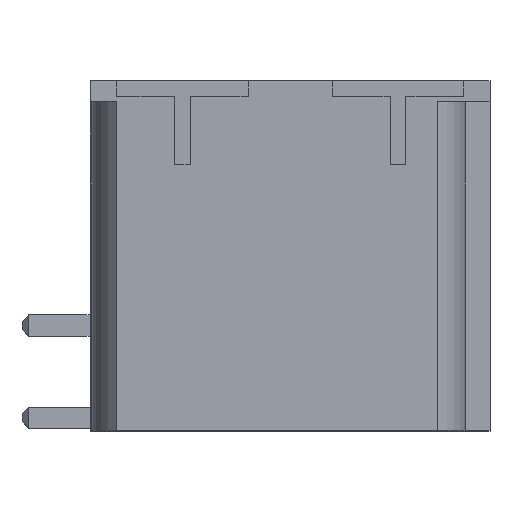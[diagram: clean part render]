
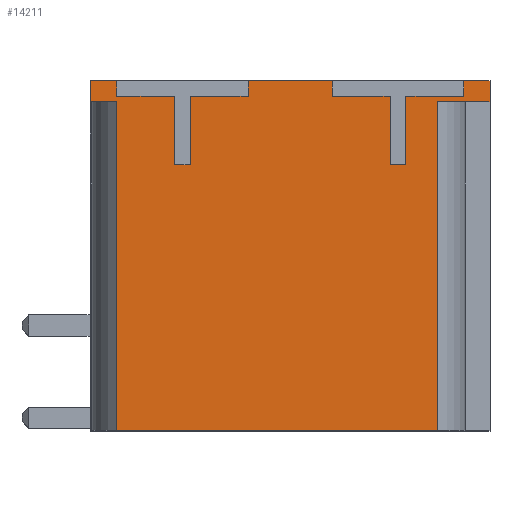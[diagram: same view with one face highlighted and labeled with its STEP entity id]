
A CAD part, top view. The second image highlights one B-rep face of the part: STEP entity #14211.
In plain terms, the highlighted planar face has unit normal (0, 0, 1).
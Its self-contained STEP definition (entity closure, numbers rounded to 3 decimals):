
#1494=DIRECTION('',(-1.,0.,0.));
#1495=VECTOR('',#1494,1.);
#1496=CARTESIAN_POINT('',(17.8,13.3,-10.873));
#1497=LINE('',#1496,#1495);
#1502=DIRECTION('',(-1.,0.,0.));
#1503=VECTOR('',#1502,3.2);
#1504=CARTESIAN_POINT('',(11.8,13.3,-10.873));
#1505=LINE('',#1504,#1503);
#1510=DIRECTION('',(-1.,0.,0.));
#1511=VECTOR('',#1510,1.);
#1512=CARTESIAN_POINT('',(3.6,13.3,-10.873));
#1513=LINE('',#1512,#1511);
#2012=DIRECTION('',(0.,1.,0.));
#2013=VECTOR('',#2012,0.8);
#2014=CARTESIAN_POINT('',(17.8,12.5,-10.873));
#2015=LINE('',#2014,#2013);
#2578=DIRECTION('',(1.,0.,0.));
#2579=VECTOR('',#2578,12.2);
#2580=CARTESIAN_POINT('',(3.6,0.,-10.873));
#2581=LINE('',#2580,#2579);
#2883=DIRECTION('',(0.,-1.,0.));
#2884=VECTOR('',#2883,0.8);
#2885=CARTESIAN_POINT('',(2.6,13.3,-10.873));
#2886=LINE('',#2885,#2884);
#2900=DIRECTION('',(0.,-1.,0.));
#2901=VECTOR('',#2900,12.5);
#2902=CARTESIAN_POINT('',(3.6,12.5,-10.873));
#2903=LINE('',#2902,#2901);
#2908=DIRECTION('',(0.,1.,0.));
#2909=VECTOR('',#2908,0.6);
#2910=CARTESIAN_POINT('',(16.8,12.7,-10.873));
#2911=LINE('',#2910,#2909);
#2912=DIRECTION('',(-1.,0.,0.));
#2913=VECTOR('',#2912,2.);
#2914=CARTESIAN_POINT('',(17.8,12.5,-10.873));
#2915=LINE('',#2914,#2913);
#2916=DIRECTION('',(0.,-1.,0.));
#2917=VECTOR('',#2916,12.5);
#2918=CARTESIAN_POINT('',(15.8,12.5,-10.873));
#2919=LINE('',#2918,#2917);
#2920=DIRECTION('',(-1.,0.,0.));
#2921=VECTOR('',#2920,1.);
#2922=CARTESIAN_POINT('',(3.6,12.5,-10.873));
#2923=LINE('',#2922,#2921);
#2924=DIRECTION('',(0.,1.,0.));
#2925=VECTOR('',#2924,0.6);
#2926=CARTESIAN_POINT('',(8.6,12.7,-10.873));
#2927=LINE('',#2926,#2925);
#2928=DIRECTION('',(0.,1.,0.));
#2929=VECTOR('',#2928,0.6);
#2930=CARTESIAN_POINT('',(11.8,12.7,-10.873));
#2931=LINE('',#2930,#2929);
#2972=DIRECTION('',(-1.,0.,0.));
#2973=VECTOR('',#2972,2.2);
#2974=CARTESIAN_POINT('',(16.8,12.7,-10.873));
#2975=LINE('',#2974,#2973);
#2980=DIRECTION('',(0.,-1.,0.));
#2981=VECTOR('',#2980,2.6);
#2982=CARTESIAN_POINT('',(14.6,12.7,-10.873));
#2983=LINE('',#2982,#2981);
#2988=DIRECTION('',(-1.,0.,0.));
#2989=VECTOR('',#2988,0.6);
#2990=CARTESIAN_POINT('',(14.6,10.1,-10.873));
#2991=LINE('',#2990,#2989);
#2996=DIRECTION('',(0.,1.,0.));
#2997=VECTOR('',#2996,2.6);
#2998=CARTESIAN_POINT('',(14.,10.1,-10.873));
#2999=LINE('',#2998,#2997);
#3004=DIRECTION('',(-1.,0.,0.));
#3005=VECTOR('',#3004,2.2);
#3006=CARTESIAN_POINT('',(14.,12.7,-10.873));
#3007=LINE('',#3006,#3005);
#3053=DIRECTION('',(0.,1.,0.));
#3054=VECTOR('',#3053,0.6);
#3055=CARTESIAN_POINT('',(3.6,12.7,-10.873));
#3056=LINE('',#3055,#3054);
#3097=DIRECTION('',(-1.,0.,0.));
#3098=VECTOR('',#3097,2.2);
#3099=CARTESIAN_POINT('',(8.6,12.7,-10.873));
#3100=LINE('',#3099,#3098);
#3105=DIRECTION('',(0.,-1.,0.));
#3106=VECTOR('',#3105,2.6);
#3107=CARTESIAN_POINT('',(6.4,12.7,-10.873));
#3108=LINE('',#3107,#3106);
#3113=DIRECTION('',(-1.,0.,0.));
#3114=VECTOR('',#3113,0.6);
#3115=CARTESIAN_POINT('',(6.4,10.1,-10.873));
#3116=LINE('',#3115,#3114);
#3121=DIRECTION('',(0.,1.,0.));
#3122=VECTOR('',#3121,2.6);
#3123=CARTESIAN_POINT('',(5.8,10.1,-10.873));
#3124=LINE('',#3123,#3122);
#3129=DIRECTION('',(-1.,0.,0.));
#3130=VECTOR('',#3129,2.2);
#3131=CARTESIAN_POINT('',(5.8,12.7,-10.873));
#3132=LINE('',#3131,#3130);
#7616=CARTESIAN_POINT('',(17.8,12.5,-10.873));
#7617=VERTEX_POINT('',#7616);
#7618=CARTESIAN_POINT('',(17.8,13.3,-10.873));
#7619=VERTEX_POINT('',#7618);
#7742=CARTESIAN_POINT('',(16.8,13.3,-10.873));
#7743=VERTEX_POINT('',#7742);
#7748=CARTESIAN_POINT('',(11.8,13.3,-10.873));
#7749=VERTEX_POINT('',#7748);
#7750=CARTESIAN_POINT('',(8.6,13.3,-10.873));
#7751=VERTEX_POINT('',#7750);
#7756=CARTESIAN_POINT('',(3.6,13.3,-10.873));
#7757=VERTEX_POINT('',#7756);
#7758=CARTESIAN_POINT('',(2.6,13.3,-10.873));
#7759=VERTEX_POINT('',#7758);
#8154=CARTESIAN_POINT('',(11.8,12.7,-10.873));
#8155=VERTEX_POINT('',#8154);
#8156=CARTESIAN_POINT('',(14.,12.7,-10.873));
#8157=VERTEX_POINT('',#8156);
#8158=CARTESIAN_POINT('',(14.,10.1,-10.873));
#8159=VERTEX_POINT('',#8158);
#8160=CARTESIAN_POINT('',(14.6,10.1,-10.873));
#8161=VERTEX_POINT('',#8160);
#8162=CARTESIAN_POINT('',(14.6,12.7,-10.873));
#8163=VERTEX_POINT('',#8162);
#8164=CARTESIAN_POINT('',(16.8,12.7,-10.873));
#8165=VERTEX_POINT('',#8164);
#8166=CARTESIAN_POINT('',(15.8,12.5,-10.873));
#8167=VERTEX_POINT('',#8166);
#8168=CARTESIAN_POINT('',(15.8,0.,-10.873));
#8169=VERTEX_POINT('',#8168);
#8170=CARTESIAN_POINT('',(3.6,0.,-10.873));
#8171=VERTEX_POINT('',#8170);
#8172=CARTESIAN_POINT('',(3.6,12.5,-10.873));
#8173=VERTEX_POINT('',#8172);
#8174=CARTESIAN_POINT('',(2.6,12.5,-10.873));
#8175=VERTEX_POINT('',#8174);
#8176=CARTESIAN_POINT('',(3.6,12.7,-10.873));
#8177=VERTEX_POINT('',#8176);
#8178=CARTESIAN_POINT('',(5.8,12.7,-10.873));
#8179=VERTEX_POINT('',#8178);
#8180=CARTESIAN_POINT('',(5.8,10.1,-10.873));
#8181=VERTEX_POINT('',#8180);
#8182=CARTESIAN_POINT('',(6.4,10.1,-10.873));
#8183=VERTEX_POINT('',#8182);
#8184=CARTESIAN_POINT('',(6.4,12.7,-10.873));
#8185=VERTEX_POINT('',#8184);
#8186=CARTESIAN_POINT('',(8.6,12.7,-10.873));
#8187=VERTEX_POINT('',#8186);
#14164=CARTESIAN_POINT('',(2.6,0.,-10.873));
#14165=DIRECTION('',(0.,0.,-1.));
#14166=DIRECTION('',(0.,1.,0.));
#14167=AXIS2_PLACEMENT_3D('',#14164,#14165,#14166);
#14168=PLANE('',#14167);
#14170=ORIENTED_EDGE('',*,*,#14169,.F.);
#14172=ORIENTED_EDGE('',*,*,#14171,.F.);
#14174=ORIENTED_EDGE('',*,*,#14173,.F.);
#14176=ORIENTED_EDGE('',*,*,#14175,.F.);
#14178=ORIENTED_EDGE('',*,*,#14177,.F.);
#14180=ORIENTED_EDGE('',*,*,#14179,.F.);
#14182=ORIENTED_EDGE('',*,*,#14181,.T.);
#14183=ORIENTED_EDGE('',*,*,#12585,.F.);
#14184=ORIENTED_EDGE('',*,*,#13051,.F.);
#14186=ORIENTED_EDGE('',*,*,#14185,.T.);
#14188=ORIENTED_EDGE('',*,*,#14187,.T.);
#14189=ORIENTED_EDGE('',*,*,#13774,.F.);
#14190=ORIENTED_EDGE('',*,*,#14156,.F.);
#14191=ORIENTED_EDGE('',*,*,#14145,.T.);
#14192=ORIENTED_EDGE('',*,*,#14128,.F.);
#14193=ORIENTED_EDGE('',*,*,#12601,.F.);
#14195=ORIENTED_EDGE('',*,*,#14194,.F.);
#14197=ORIENTED_EDGE('',*,*,#14196,.F.);
#14199=ORIENTED_EDGE('',*,*,#14198,.F.);
#14201=ORIENTED_EDGE('',*,*,#14200,.F.);
#14203=ORIENTED_EDGE('',*,*,#14202,.F.);
#14205=ORIENTED_EDGE('',*,*,#14204,.F.);
#14207=ORIENTED_EDGE('',*,*,#14206,.T.);
#14208=ORIENTED_EDGE('',*,*,#12593,.F.);
#14209=EDGE_LOOP('',(#14170,#14172,#14174,#14176,#14178,#14180,#14182,#14183,
#14184,#14186,#14188,#14189,#14190,#14191,#14192,#14193,#14195,#14197,#14199,
#14201,#14203,#14205,#14207,#14208));
#14210=FACE_OUTER_BOUND('',#14209,.F.);
#14211=ADVANCED_FACE('',(#14210),#14168,.F.);
#12585=EDGE_CURVE('',#7619,#7743,#1497,.T.);
#12593=EDGE_CURVE('',#7749,#7751,#1505,.T.);
#12601=EDGE_CURVE('',#7757,#7759,#1513,.T.);
#13051=EDGE_CURVE('',#7617,#7619,#2015,.T.);
#13774=EDGE_CURVE('',#8171,#8169,#2581,.T.);
#14128=EDGE_CURVE('',#7759,#8175,#2886,.T.);
#14145=EDGE_CURVE('',#8173,#8175,#2923,.T.);
#14156=EDGE_CURVE('',#8173,#8171,#2903,.T.);
#14169=EDGE_CURVE('',#8155,#7749,#2931,.T.);
#14171=EDGE_CURVE('',#8157,#8155,#3007,.T.);
#14173=EDGE_CURVE('',#8159,#8157,#2999,.T.);
#14175=EDGE_CURVE('',#8161,#8159,#2991,.T.);
#14177=EDGE_CURVE('',#8163,#8161,#2983,.T.);
#14179=EDGE_CURVE('',#8165,#8163,#2975,.T.);
#14181=EDGE_CURVE('',#8165,#7743,#2911,.T.);
#14185=EDGE_CURVE('',#7617,#8167,#2915,.T.);
#14187=EDGE_CURVE('',#8167,#8169,#2919,.T.);
#14194=EDGE_CURVE('',#8177,#7757,#3056,.T.);
#14196=EDGE_CURVE('',#8179,#8177,#3132,.T.);
#14198=EDGE_CURVE('',#8181,#8179,#3124,.T.);
#14200=EDGE_CURVE('',#8183,#8181,#3116,.T.);
#14202=EDGE_CURVE('',#8185,#8183,#3108,.T.);
#14204=EDGE_CURVE('',#8187,#8185,#3100,.T.);
#14206=EDGE_CURVE('',#8187,#7751,#2927,.T.);
